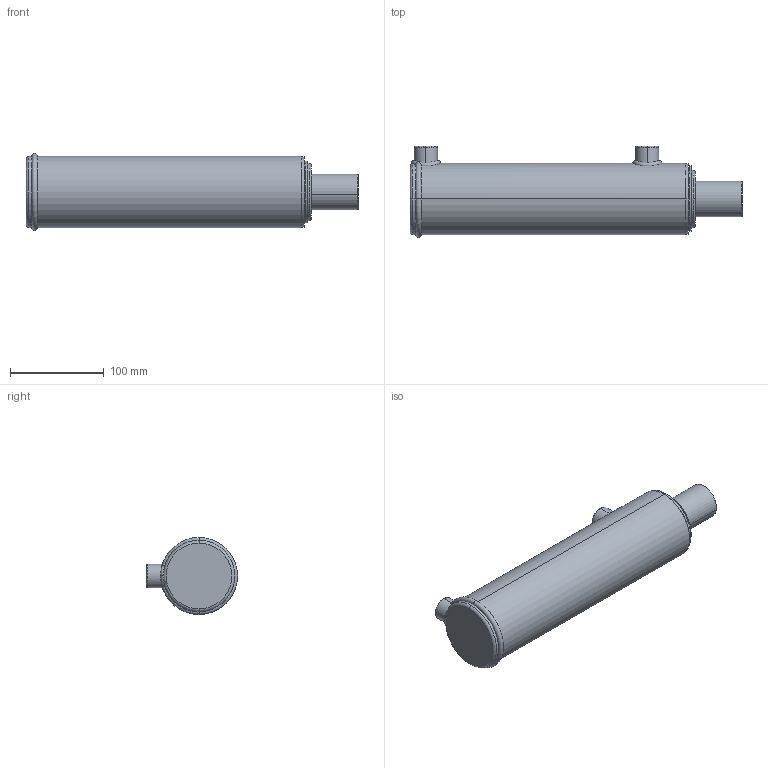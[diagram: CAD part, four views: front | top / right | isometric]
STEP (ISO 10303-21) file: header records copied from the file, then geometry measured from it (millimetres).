
FILE_DESCRIPTION (( 'STEP AP203' ), '1' );
FILE_NAME ('BL250150x203 (8).STEP', '2014-11-25T01:04:45', ( '' ), ( '' ), 'SwSTEP 2.0', 'SolidWorks 2014', '' );
FILE_SCHEMA (( 'CONFIG_CONTROL_DESIGN' ));
Length unit declared in the file: millimetre
Products named in the file (3): BL body 2.5_2.5x8; Spare_2.5x8; BL250150x203 (8)
Assembly tree (2 placements, depth 2):
  BL250150x203 (8)
    BL body 2.5_2.5x8
    Spare_2.5x8
Bounding box: 354 x 97.2 x 82.2 mm (x, y, z)
Volume: 1449438.6 mm3; surface area: 155776.6 mm2
Topology: 2 solids, 2 shells, 88 faces, 205 edges, 126 vertices
Faces by surface type: cylinder 32, plane 20, torus 18, bspline 10, cone 8
Entity records: 5772 total; most frequent: CARTESIAN_POINT 3521, DIRECTION 422, ORIENTED_EDGE 402, EDGE_CURVE 201, AXIS2_PLACEMENT_3D 182, VERTEX_POINT 126, EDGE_LOOP 101, CIRCLE 99
